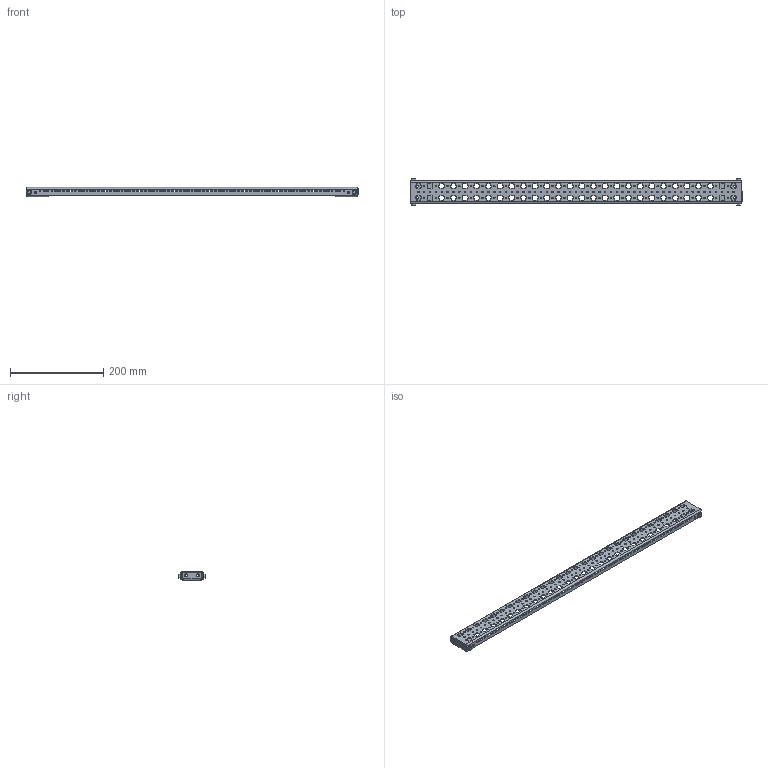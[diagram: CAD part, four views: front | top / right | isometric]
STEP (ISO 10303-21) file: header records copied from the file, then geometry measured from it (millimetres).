
FILE_DESCRIPTION (( 'STEP AP203' ), '1' );
FILE_NAME ('MRD 80.06 L Ðåéêà ìîíòàæíàÿ (äåðæàòåëè ñäâèíóòû).STEP', '2025-05-15T12:14:53', ( '' ), ( '' ), 'SwSTEP 2.0', 'SolidWorks 2019', '' );
FILE_SCHEMA (( 'CONFIG_CONTROL_DESIGN' ));
Length unit declared in the file: millimetre
Products named in the file (4): MRD X.06.002 L Êðîíøòåéí ðåéêè; MRD 80.06 L Ðåéêà ìîíòàæíàÿ (äåðæàòåëè ñäâèíóòû); MRD X.06.001 L Ðåéêà ìîíòàæíàÿ_MRD 80.06.001 L; 妈眚 襦祛磬疱玎栝_4,8x11
Assembly tree (7 placements, depth 2):
  MRD 80.06 L Ðåéêà ìîíòàæíàÿ (äåðæàòåëè ñäâèíóòû)
    MRD X.06.001 L Ðåéêà ìîíòàæíàÿ_MRD 80.06.001 L
    MRD X.06.002 L Êðîíøòåéí ðåéêè  x2
    妈眚 襦祛磬疱玎栝_4,8x11  x4
Bounding box: 711 x 58 x 19.5 mm (x, y, z)
Volume: 105834.1 mm3; surface area: 122458 mm2
Topology: 7 solids, 7 shells, 2420 faces, 7134 edges, 4728 vertices
Faces by surface type: cylinder 1366, plane 1010, bspline 24, cone 20
Entity records: 78670 total; most frequent: CARTESIAN_POINT 14474, DIRECTION 13641, ORIENTED_EDGE 13328, EDGE_CURVE 6664, AXIS2_PLACEMENT_3D 4790, VERTEX_POINT 4429, VECTOR 4061, LINE 4061
